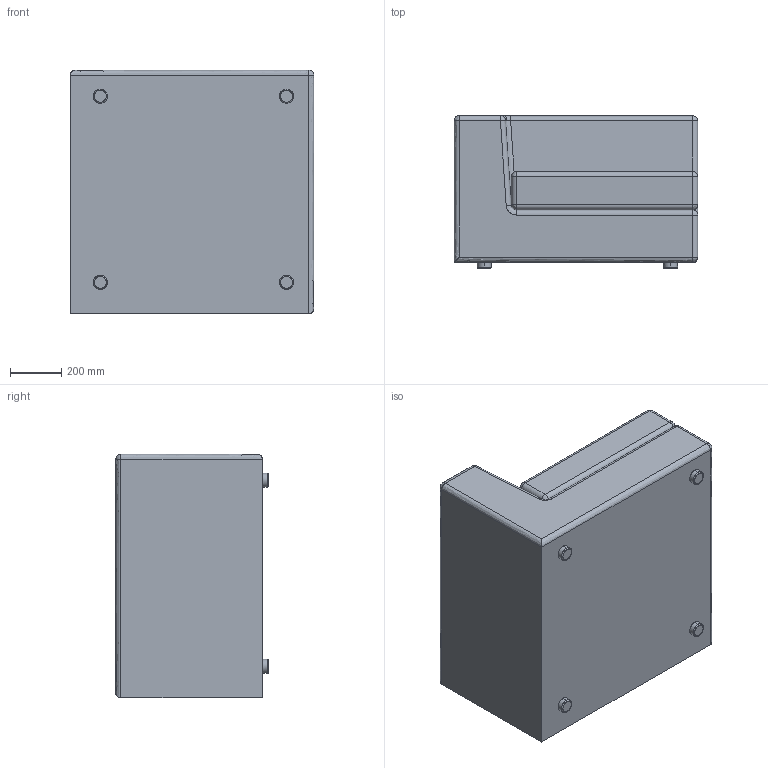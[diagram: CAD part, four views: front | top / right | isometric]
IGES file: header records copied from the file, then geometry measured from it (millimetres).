
Start section: SolidWorks IGES file using NURBS representation for surfaces
Global section: file name: G:\VICCARBE\PRODUCTOS\18-BERRY\04-MODELADOS (PLANOS)\SOLIDWORKS\ELEMENTOS\VICCARBE_Berry_B7.IGS; native system: SolidWorks 2009; preprocessor: SolidWorks 2009; author: RUBEN; date: 110902.094203; units: millimetre
Bounding box: 955 x 598 x 955 mm (x, y, z)
Surface area: 5378225.9 mm2 (no closed solid volume)
Topology: 0 solids, 0 shells, 88 faces, 995 edges, 982 vertices
Faces by surface type: bspline 88
